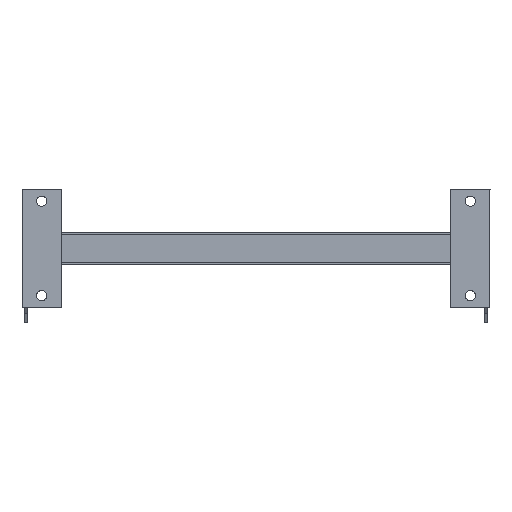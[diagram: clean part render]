
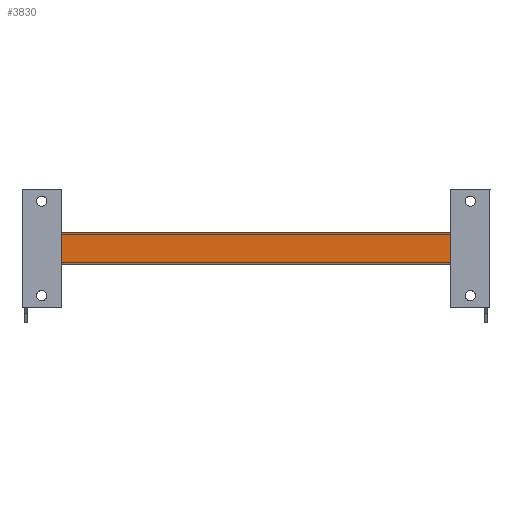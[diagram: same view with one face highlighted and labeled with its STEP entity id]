
A CAD part, front view. The second image highlights one B-rep face of the part: STEP entity #3830.
In plain terms, the highlighted planar face has unit normal (0, -1, 0).
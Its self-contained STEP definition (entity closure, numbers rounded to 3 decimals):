
#46 = VERTEX_POINT ( 'NONE', #1439 ) ;
#112 = DIRECTION ( 'NONE',  ( 0., 0., -1. ) ) ;
#234 = LINE ( 'NONE', #2435, #4214 ) ;
#277 = CARTESIAN_POINT ( 'NONE',  ( -252., -210., -20. ) ) ;
#305 = PLANE ( 'NONE',  #2742 ) ;
#621 = VECTOR ( 'NONE', #112, 1000. ) ;
#733 = EDGE_CURVE ( 'NONE', #4206, #901, #1534, .T. ) ;
#842 = LINE ( 'NONE', #1519, #4420 ) ;
#901 = VERTEX_POINT ( 'NONE', #4252 ) ;
#903 = VERTEX_POINT ( 'NONE', #1833 ) ;
#1081 = DIRECTION ( 'NONE',  ( -1., 0., 0. ) ) ;
#1179 = DIRECTION ( 'NONE',  ( 0., 0., -1. ) ) ;
#1234 = ORIENTED_EDGE ( 'NONE', *, *, #3693, .T. ) ;
#1439 = CARTESIAN_POINT ( 'NONE',  ( 252., -210., 20. ) ) ;
#1519 = CARTESIAN_POINT ( 'NONE',  ( 252., -210., -20. ) ) ;
#1534 = LINE ( 'NONE', #277, #621 ) ;
#1833 = CARTESIAN_POINT ( 'NONE',  ( 252., -210., -20. ) ) ;
#2002 = DIRECTION ( 'NONE',  ( 0., 1., 0. ) ) ;
#2342 = CARTESIAN_POINT ( 'NONE',  ( 252., -210., -20. ) ) ;
#2435 = CARTESIAN_POINT ( 'NONE',  ( 252., -210., -20. ) ) ;
#2551 = LINE ( 'NONE', #3139, #3377 ) ;
#2630 = EDGE_CURVE ( 'NONE', #46, #903, #842, .T. ) ;
#2742 = AXIS2_PLACEMENT_3D ( 'NONE', #2342, #2002, #4078 ) ;
#2767 = ORIENTED_EDGE ( 'NONE', *, *, #733, .T. ) ;
#2776 = EDGE_LOOP ( 'NONE', ( #2767, #4007, #4290, #1234 ) ) ;
#2897 = FACE_OUTER_BOUND ( 'NONE', #2776, .T. ) ;
#3139 = CARTESIAN_POINT ( 'NONE',  ( 252., -210., 20. ) ) ;
#3377 = VECTOR ( 'NONE', #4151, 1000. ) ;
#3491 = CARTESIAN_POINT ( 'NONE',  ( -252., -210., 20. ) ) ;
#3693 = EDGE_CURVE ( 'NONE', #46, #4206, #2551, .T. ) ;
#3830 = ADVANCED_FACE ( 'NONE', ( #2897 ), #305, .F. ) ;
#4007 = ORIENTED_EDGE ( 'NONE', *, *, #4200, .F. ) ;
#4078 = DIRECTION ( 'NONE',  ( 0., 0., 1. ) ) ;
#4151 = DIRECTION ( 'NONE',  ( -1., 0., 0. ) ) ;
#4200 = EDGE_CURVE ( 'NONE', #903, #901, #234, .T. ) ;
#4206 = VERTEX_POINT ( 'NONE', #3491 ) ;
#4214 = VECTOR ( 'NONE', #1081, 1000. ) ;
#4252 = CARTESIAN_POINT ( 'NONE',  ( -252., -210., -20. ) ) ;
#4290 = ORIENTED_EDGE ( 'NONE', *, *, #2630, .F. ) ;
#4420 = VECTOR ( 'NONE', #1179, 1000. ) ;
